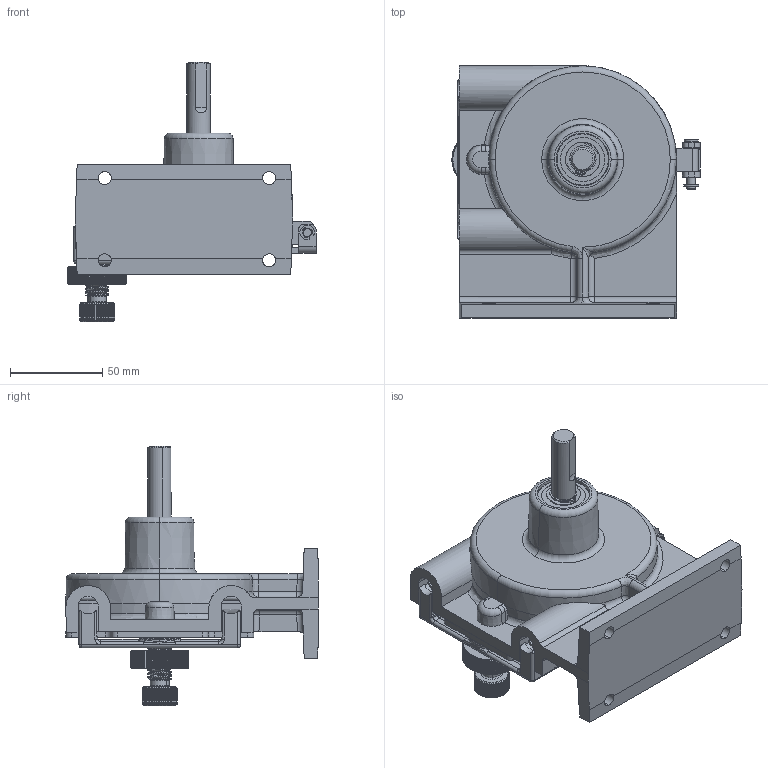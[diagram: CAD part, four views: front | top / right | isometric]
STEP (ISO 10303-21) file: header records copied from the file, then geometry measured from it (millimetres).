
FILE_DESCRIPTION (( 'STEP AP203' ), '1' );
FILE_NAME ('500-PHO.STEP', '2012-04-02T17:54:50', ( '' ), ( '' ), 'SwSTEP 2.0', 'SolidWorks 2012', '' );
FILE_SCHEMA (( 'CONFIG_CONTROL_DESIGN' ));
Products named in the file (1): 500-PHO
Bounding box: 134.22 x 136.48 x 140.14 mm (x, y, z)
Surface area: 92230.2 mm2 (no closed solid volume)
Topology: 0 solids, 25 shells, 1195 faces, 4967 edges, 3661 vertices
Faces by surface type: plane 588, cylinder 318, cone 157, bspline 88, torus 31, sphere 13
Entity records: 68151 total; most frequent: CARTESIAN_POINT 30503, ORIENTED_EDGE 7874, DIRECTION 6568, EDGE_CURVE 4960, VERTEX_POINT 3661, VECTOR 2534, LINE 2534, AXIS2_PLACEMENT_3D 2017
